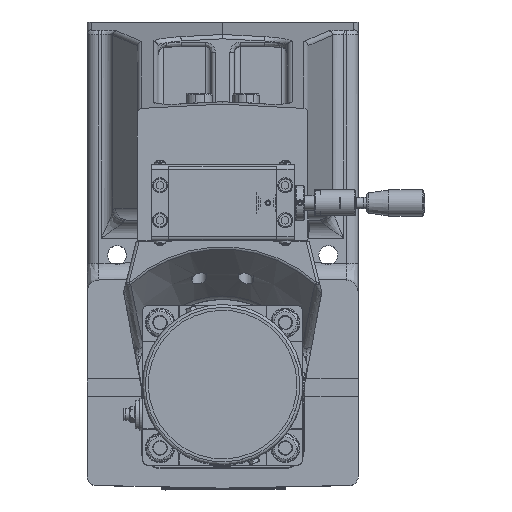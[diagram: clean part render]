
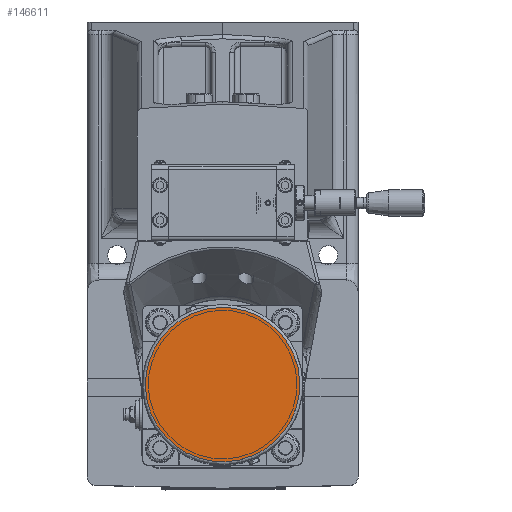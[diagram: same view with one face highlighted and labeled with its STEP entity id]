
A CAD part, top view. The second image highlights one B-rep face of the part: STEP entity #146611.
In plain terms, the highlighted planar face has unit normal (0, 0, 1).
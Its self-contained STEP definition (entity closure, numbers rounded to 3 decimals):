
#38246=PLANE('',#154784);
#45264=FACE_OUTER_BOUND('',#53426,.T.);
#53426=EDGE_LOOP('',(#113161));
#59294=CIRCLE('',#154783,53.);
#66333=VERTEX_POINT('',#219530);
#83201=EDGE_CURVE('',#66333,#66333,#59294,.T.);
#113161=ORIENTED_EDGE('',*,*,#83201,.F.);
#146611=ADVANCED_FACE('',(#45264),#38246,.F.);
#154783=AXIS2_PLACEMENT_3D('',#219531,#173105,#173106);
#154784=AXIS2_PLACEMENT_3D('',#219532,#173107,#173108);
#173105=DIRECTION('center_axis',(0.,0.,
-1.));
#173106=DIRECTION('ref_axis',(-0.924,-0.383,0.));
#173107=DIRECTION('center_axis',(0.,0.,
-1.));
#173108=DIRECTION('ref_axis',(-0.924,-0.383,0.));
#219530=CARTESIAN_POINT('',(48.966,-11.718,897.75));
#219531=CARTESIAN_POINT('Origin',(0.,-32.,897.75));
#219532=CARTESIAN_POINT('Origin',(0.,-32.,897.75));
